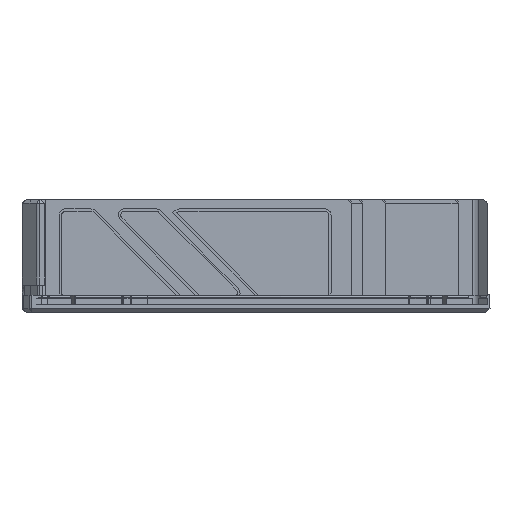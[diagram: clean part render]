
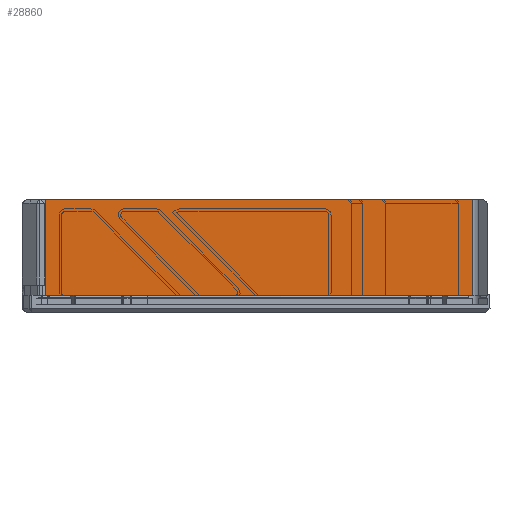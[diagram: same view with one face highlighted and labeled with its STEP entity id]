
A CAD part, left-side view. The second image highlights one B-rep face of the part: STEP entity #28860.
In plain terms, the highlighted planar face has unit normal (-1, 0, 0).
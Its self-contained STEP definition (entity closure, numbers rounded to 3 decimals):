
#9159=DIRECTION('',(0.,-1.,0.));
#9160=VECTOR('',#9159,106.509);
#9161=CARTESIAN_POINT('',(293.05,115.774,22.38));
#9162=LINE('',#9161,#9160);
#12892=DIRECTION('',(0.,-1.,0.));
#12893=VECTOR('',#12892,106.509);
#12894=CARTESIAN_POINT('',(293.05,115.774,
-1.62));
#12895=LINE('',#12894,#12893);
#12985=DIRECTION('',(0.,0.,1.));
#12986=VECTOR('',#12985,24.);
#12987=CARTESIAN_POINT('',(293.05,115.774,
-1.62));
#12988=LINE('',#12987,#12986);
#12992=DIRECTION('',(0.,0.,1.));
#12993=VECTOR('',#12992,24.);
#12994=CARTESIAN_POINT('',(293.05,9.266,
-1.62));
#12995=LINE('',#12994,#12993);
#17898=CARTESIAN_POINT('',(293.05,115.774,22.38));
#17899=VERTEX_POINT('',#17898);
#17900=CARTESIAN_POINT('',(293.05,9.266,22.38));
#17901=VERTEX_POINT('',#17900);
#17918=CARTESIAN_POINT('',(293.05,115.774,
-1.62));
#17919=VERTEX_POINT('',#17918);
#17920=CARTESIAN_POINT('',(293.05,9.266,
-1.62));
#17921=VERTEX_POINT('',#17920);
#28848=CARTESIAN_POINT('',(293.05,115.774,
-1.62));
#28849=DIRECTION('',(-1.,0.,0.));
#28850=DIRECTION('',(0.,-1.,0.));
#28851=AXIS2_PLACEMENT_3D('',#28848,#28849,#28850);
#28852=PLANE('',#28851);
#28853=ORIENTED_EDGE('',*,*,#28837,.F.);
#28854=ORIENTED_EDGE('',*,*,#28814,.T.);
#28855=ORIENTED_EDGE('',*,*,#24846,.T.);
#28857=ORIENTED_EDGE('',*,*,#28856,.F.);
#28858=EDGE_LOOP('',(#28853,#28854,#28855,#28857));
#28859=FACE_OUTER_BOUND('',#28858,.F.);
#24846=EDGE_CURVE('',#17899,#17901,#9162,.T.);
#28814=EDGE_CURVE('',#17919,#17899,#12988,.T.);
#28837=EDGE_CURVE('',#17919,#17921,#12895,.T.);
#28856=EDGE_CURVE('',#17921,#17901,#12995,.T.);
#28860=ADVANCED_FACE('',(#28859),#28852,.T.);
